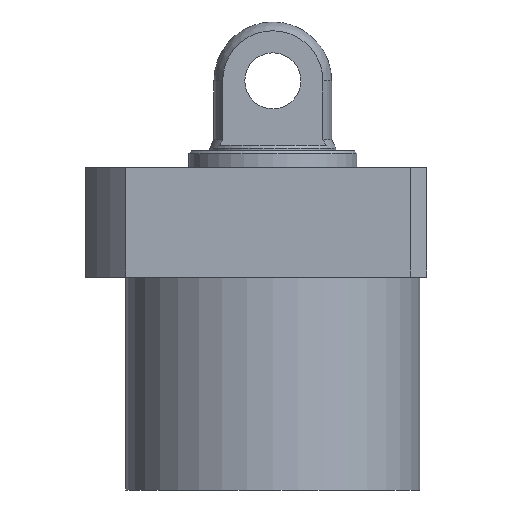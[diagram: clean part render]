
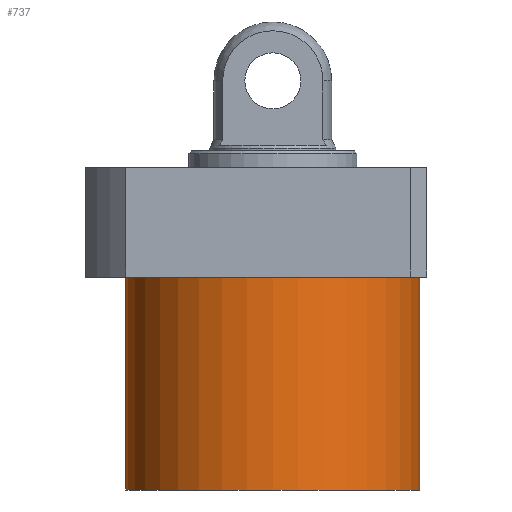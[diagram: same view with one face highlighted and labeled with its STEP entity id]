
A CAD part, front view. The second image highlights one B-rep face of the part: STEP entity #737.
In plain terms, the highlighted cylindrical face has radius 52.5 mm (diameter 105 mm), a partial arc.
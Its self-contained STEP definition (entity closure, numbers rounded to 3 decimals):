
#7 = CARTESIAN_POINT ( 'NONE',  ( 0., 0., -95.5 ) ) ;
#63 = VECTOR ( 'NONE', #99, 1000. ) ;
#99 = DIRECTION ( 'NONE',  ( 0., 0., 1. ) ) ;
#110 = EDGE_CURVE ( 'NONE', #1190, #1066, #926, .T. ) ;
#229 = EDGE_CURVE ( 'NONE', #1154, #1190, #500, .T. ) ;
#242 = CARTESIAN_POINT ( 'NONE',  ( 52.5, 0., -95.5 ) ) ;
#295 = CARTESIAN_POINT ( 'NONE',  ( 0., 0., -95.5 ) ) ;
#500 = CIRCLE ( 'NONE', #1725, 52.5 ) ;
#570 = ORIENTED_EDGE ( 'NONE', *, *, #110, .F. ) ;
#683 = AXIS2_PLACEMENT_3D ( 'NONE', #295, #1265, #969 ) ;
#708 = CARTESIAN_POINT ( 'NONE',  ( 52.5, 0., -19.5 ) ) ;
#737 = ADVANCED_FACE ( 'NONE', ( #1409 ), #1074, .T. ) ;
#752 = DIRECTION ( 'NONE',  ( 1., 0., 0. ) ) ;
#775 = EDGE_CURVE ( 'NONE', #1154, #1356, #1626, .T. ) ;
#797 = AXIS2_PLACEMENT_3D ( 'NONE', #877, #1159, #752 ) ;
#801 = VECTOR ( 'NONE', #1399, 1000. ) ;
#877 = CARTESIAN_POINT ( 'NONE',  ( 0., 0., -19.5 ) ) ;
#926 = LINE ( 'NONE', #1758, #63 ) ;
#929 = EDGE_CURVE ( 'NONE', #1356, #1066, #1562, .T. ) ;
#944 = DIRECTION ( 'NONE',  ( -1., 0., 0. ) ) ;
#969 = DIRECTION ( 'NONE',  ( 1., 0., 0. ) ) ;
#1040 = CARTESIAN_POINT ( 'NONE',  ( -52.5, 0., -19.5 ) ) ;
#1062 = ORIENTED_EDGE ( 'NONE', *, *, #929, .T. ) ;
#1066 = VERTEX_POINT ( 'NONE', #1040 ) ;
#1074 = CYLINDRICAL_SURFACE ( 'NONE', #683, 52.5 ) ;
#1154 = VERTEX_POINT ( 'NONE', #242 ) ;
#1159 = DIRECTION ( 'NONE',  ( 0., 0., -1. ) ) ;
#1190 = VERTEX_POINT ( 'NONE', #1493 ) ;
#1232 = ORIENTED_EDGE ( 'NONE', *, *, #229, .F. ) ;
#1235 = DIRECTION ( 'NONE',  ( 0., 0., -1. ) ) ;
#1248 = CARTESIAN_POINT ( 'NONE',  ( 52.5, 0., -95.5 ) ) ;
#1265 = DIRECTION ( 'NONE',  ( 0., 0., 1. ) ) ;
#1356 = VERTEX_POINT ( 'NONE', #708 ) ;
#1399 = DIRECTION ( 'NONE',  ( 0., 0., 1. ) ) ;
#1409 = FACE_OUTER_BOUND ( 'NONE', #1438, .T. ) ;
#1438 = EDGE_LOOP ( 'NONE', ( #570, #1232, #1468, #1062 ) ) ;
#1468 = ORIENTED_EDGE ( 'NONE', *, *, #775, .T. ) ;
#1493 = CARTESIAN_POINT ( 'NONE',  ( -52.5, 0., -95.5 ) ) ;
#1562 = CIRCLE ( 'NONE', #797, 52.5 ) ;
#1626 = LINE ( 'NONE', #1248, #801 ) ;
#1725 = AXIS2_PLACEMENT_3D ( 'NONE', #7, #1235, #944 ) ;
#1758 = CARTESIAN_POINT ( 'NONE',  ( -52.5, 0., -95.5 ) ) ;
